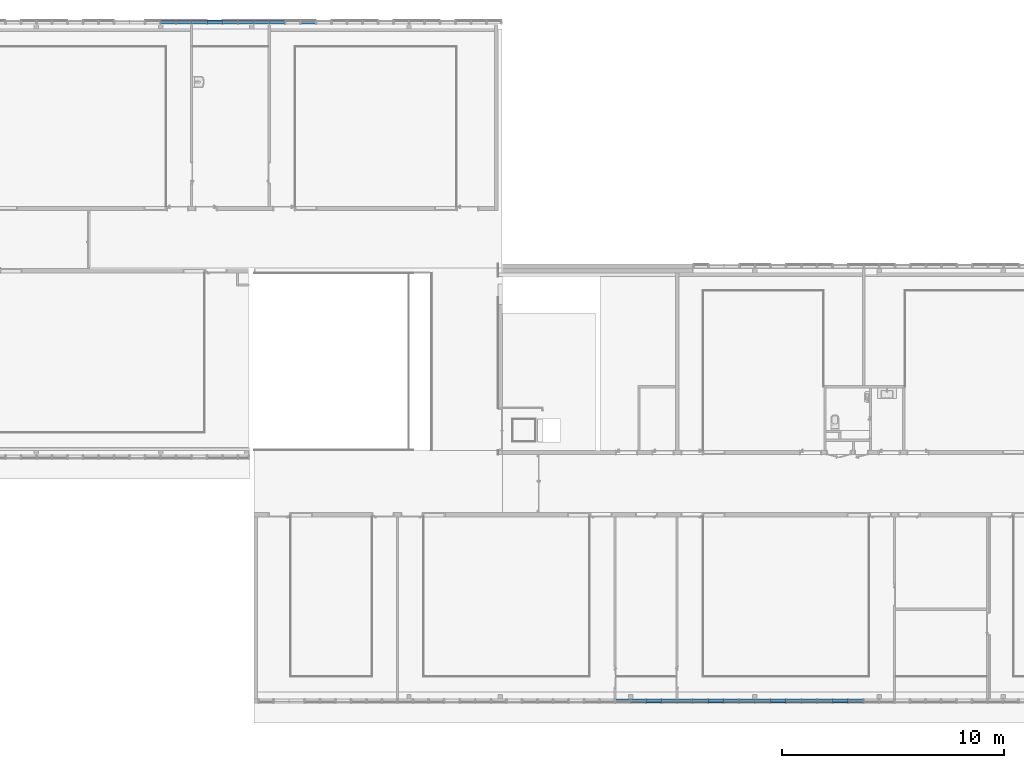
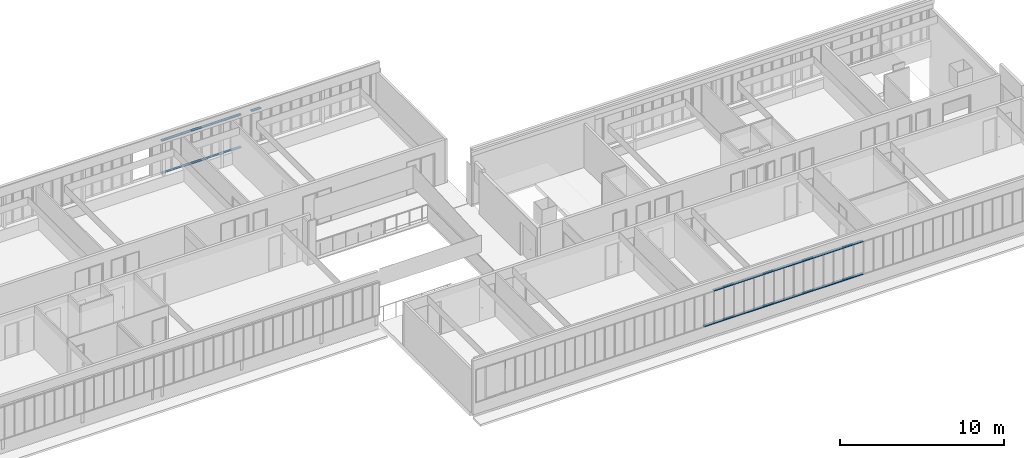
# One storey, part 14 of 87: 58 members, 2 elements without a shape of their own.
"""IFC2X3 building model written with IfcOpenShell, lengths in centimetres."""

from ifc_helpers import new_model, entity, si_unit, converted_unit, derived_unit, direction, frame, origin, place, context, subcontext, project, spatial, polyline, outline, extrude, source, transform, mapped, material, type_object, type_shapes, element, aggregate, save


model = new_model("IFC2X3")

# Units and contexts
model_context = context("Model", 3, precision=0.001, world=origin(), true_north=direction((6.12303176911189e-17, 1.0)))
body_context = subcontext(model_context, "Body", "Model", "MODEL_VIEW")
ifc_project = project(units=[si_unit("LENGTHUNIT", "METRE", prefix="CENTI"), si_unit("AREAUNIT", "SQUARE_METRE"), si_unit("VOLUMEUNIT", "CUBIC_METRE"), converted_unit("PLANEANGLEUNIT", "DEGREE", entity("IfcRatioMeasure", 0.0174532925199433), si_unit("PLANEANGLEUNIT", "RADIAN"), dimensions=[0, 0, 0, 0, 0, 0, 0]), si_unit("MASSUNIT", "GRAM", prefix="KILO"), derived_unit("MASSDENSITYUNIT", [(si_unit("MASSUNIT", "GRAM", prefix="KILO"), 1), (si_unit("LENGTHUNIT", "METRE"), -3)]), si_unit("TIMEUNIT", "SECOND"), si_unit("FREQUENCYUNIT", "HERTZ"), si_unit("THERMODYNAMICTEMPERATUREUNIT", "DEGREE_CELSIUS"), derived_unit("THERMALTRANSMITTANCEUNIT", [(si_unit("MASSUNIT", "GRAM", prefix="KILO"), 1), (si_unit("THERMODYNAMICTEMPERATUREUNIT", "KELVIN"), -1), (si_unit("TIMEUNIT", "SECOND"), -3)]), derived_unit("VOLUMETRICFLOWRATEUNIT", [(si_unit("LENGTHUNIT", "METRE"), 3), (si_unit("TIMEUNIT", "SECOND"), -1)]), si_unit("ELECTRICCURRENTUNIT", "AMPERE"), si_unit("ELECTRICVOLTAGEUNIT", "VOLT"), si_unit("POWERUNIT", "WATT"), si_unit("FORCEUNIT", "NEWTON", prefix="KILO"), si_unit("ILLUMINANCEUNIT", "LUX"), si_unit("LUMINOUSFLUXUNIT", "LUMEN"), si_unit("LUMINOUSINTENSITYUNIT", "CANDELA"), derived_unit("USERDEFINED", [(si_unit("MASSUNIT", "GRAM", prefix="KILO"), -1), (si_unit("LENGTHUNIT", "METRE"), -2), (si_unit("TIMEUNIT", "SECOND"), 3), (si_unit("LUMINOUSFLUXUNIT", "LUMEN"), 1)]), derived_unit("LINEARVELOCITYUNIT", [(si_unit("LENGTHUNIT", "METRE"), 1), (si_unit("TIMEUNIT", "SECOND"), -1)]), si_unit("PRESSUREUNIT", "PASCAL"), derived_unit("USERDEFINED", [(si_unit("LENGTHUNIT", "METRE"), -2), (si_unit("MASSUNIT", "GRAM", prefix="KILO"), 1), (si_unit("TIMEUNIT", "SECOND"), -2)])], contexts=[model_context])

# Site, building, storey
site_placement = place(None, frame((-2781.94577612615, 7442.24238424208, 0.0)))
site = spatial("IfcSite", under=ifc_project, at=site_placement, Name="Default", CompositionType="ELEMENT")
building_placement = place(site_placement, origin())
building = spatial("IfcBuilding", under=site, at=building_placement, CompositionType="ELEMENT")
storey_placement = place(building_placement, frame((0.0, 0.0, 774.0)))
storey = spatial("IfcBuildingStorey", under=building, at=storey_placement, Name="TR - N02 - ARCH", CompositionType="ELEMENT", Elevation=774.0)

# Curtain wall, members
curtain_wall_type = type_object("IfcCurtainWallType", Name="Mur-rideau:07 - mur rideau trame 70cm", PredefinedType="NOTDEFINED")
curtain_wall_1_placement = place(storey_placement, frame((0.0, 0.0, -774.0)))
curtain_wall_1 = element("IfcCurtainWall", 1, at=curtain_wall_1_placement, inside=storey, type_object=curtain_wall_type, Name="Mur-rideau:07 - mur rideau trame 70cm", ObjectType="Mur-rideau:07 - mur rideau trame 70cm")
ifc_material = material(Name="Aluminium")
member_type_1 = type_object("IfcMemberType", Name="150 x 25mm Détails", PredefinedType="MEMBER")
shared_shape_1 = source(origin(), body_context, "Body", "SweptSolid", [
    extrude(outline(polyline([(-5.6666666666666, -3.24999999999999), (-3.66666666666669, -3.24999999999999), (-3.66666666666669, -0.868749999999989), (-0.166666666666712, -0.868749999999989), (-0.166666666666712, -3.25000000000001), (13.3333333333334, -3.25000000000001), (13.3333333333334, 3.24999999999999), (-0.16666666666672, 3.24999999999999), (-0.16666666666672, 0.868749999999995), (-3.66666666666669, 0.868749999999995), (-3.66666666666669, 3.25), (-5.6666666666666, 3.25), (-5.6666666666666, -3.24999999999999)])), frame((-3.24999999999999, -1.96666666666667, -70.0), z_axis=(0.0, 0.0, 1.0), x_axis=(0.0, -1.0, 0.0)), (0.0, 0.0, 1.0), 69.9999999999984),
])
type_shapes(member_type_1, [shared_shape_1])
member_1_placement = place(storey_placement, frame((-4559.4998776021, 26.2000000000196, 332.5), z_axis=(-1.0, 0.0, 0.0), x_axis=(0.0, 0.0, 1.0)))
member_1 = element("IfcMember", 2, at=member_1_placement, type_object=member_type_1, material=ifc_material, Name="Meneau rectangulaire:150 x 25mm Détails", ObjectType="Meneau rectangulaire:150 x 25mm Détails", context=body_context, shape_type="MappedRepresentation", body=[
    mapped(shared_shape_1, transform((0.0, 0.0, 0.0), scale=1.0)),
])
member_2_placement = place(storey_placement, frame((-4699.4998776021, 26.20000000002, 332.5), z_axis=(-1.0, 0.0, 0.0), x_axis=(0.0, 0.0, 1.0)))
member_2 = element("IfcMember", 3, at=member_2_placement, type_object=member_type_1, material=ifc_material, Name="Meneau rectangulaire:150 x 25mm Détails", ObjectType="Meneau rectangulaire:150 x 25mm Détails", context=body_context, shape_type="MappedRepresentation", body=[
    mapped(shared_shape_1, transform((0.0, 0.0, 0.0), scale=1.0)),
])
member_3_placement = place(storey_placement, frame((-4769.4998776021, 26.2000000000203, 332.5), z_axis=(-1.0, 0.0, 0.0), x_axis=(0.0, 0.0, 1.0)))
member_3 = element("IfcMember", 4, at=member_3_placement, type_object=member_type_1, material=ifc_material, Name="Meneau rectangulaire:150 x 25mm Détails", ObjectType="Meneau rectangulaire:150 x 25mm Détails", context=body_context, shape_type="MappedRepresentation", body=[
    mapped(shared_shape_1, transform((0.0, 0.0, 0.0), scale=1.0)),
])
member_4_placement = place(storey_placement, frame((-4839.4998776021, 26.2000000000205, 332.5), z_axis=(-1.0, 0.0, 0.0), x_axis=(0.0, 0.0, 1.0)))
member_4 = element("IfcMember", 5, at=member_4_placement, type_object=member_type_1, material=ifc_material, Name="Meneau rectangulaire:150 x 25mm Détails", ObjectType="Meneau rectangulaire:150 x 25mm Détails", context=body_context, shape_type="MappedRepresentation", body=[
    mapped(shared_shape_1, transform((0.0, 0.0, 0.0), scale=1.0)),
])
member_5_placement = place(storey_placement, frame((-4909.4998776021, 26.2000000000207, 332.5), z_axis=(-1.0, 0.0, 0.0), x_axis=(0.0, 0.0, 1.0)))
member_5 = element("IfcMember", 6, at=member_5_placement, type_object=member_type_1, material=ifc_material, Name="Meneau rectangulaire:150 x 25mm Détails", ObjectType="Meneau rectangulaire:150 x 25mm Détails", context=body_context, shape_type="MappedRepresentation", body=[
    mapped(shared_shape_1, transform((0.0, 0.0, 0.0), scale=1.0)),
])
member_6_placement = place(storey_placement, frame((-4979.4998776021, 26.2000000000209, 332.5), z_axis=(-1.0, 0.0, 0.0), x_axis=(0.0, 0.0, 1.0)))
member_6 = element("IfcMember", 7, at=member_6_placement, type_object=member_type_1, material=ifc_material, Name="Meneau rectangulaire:150 x 25mm Détails", ObjectType="Meneau rectangulaire:150 x 25mm Détails", context=body_context, shape_type="MappedRepresentation", body=[
    mapped(shared_shape_1, transform((0.0, 0.0, 0.0), scale=1.0)),
])
member_7_placement = place(storey_placement, frame((-5049.4998776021, 26.2000000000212, 332.5), z_axis=(-1.0, 0.0, 0.0), x_axis=(0.0, 0.0, 1.0)))
member_7 = element("IfcMember", 8, at=member_7_placement, type_object=member_type_1, material=ifc_material, Name="Meneau rectangulaire:150 x 25mm Détails", ObjectType="Meneau rectangulaire:150 x 25mm Détails", context=body_context, shape_type="MappedRepresentation", body=[
    mapped(shared_shape_1, transform((0.0, 0.0, 0.0), scale=1.0)),
])
member_8_placement = place(storey_placement, frame((-5119.4998776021, 26.2000000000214, 332.5), z_axis=(-1.0, 0.0, 0.0), x_axis=(0.0, 0.0, 1.0)))
member_8 = element("IfcMember", 9, at=member_8_placement, type_object=member_type_1, material=ifc_material, Name="Meneau rectangulaire:150 x 25mm Détails", ObjectType="Meneau rectangulaire:150 x 25mm Détails", context=body_context, shape_type="MappedRepresentation", body=[
    mapped(shared_shape_1, transform((0.0, 0.0, 0.0), scale=1.0)),
])
member_9_placement = place(storey_placement, frame((-5189.4998776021, 26.2000000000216, 332.5), z_axis=(-1.0, 0.0, 0.0), x_axis=(0.0, 0.0, 1.0)))
member_9 = element("IfcMember", 10, at=member_9_placement, type_object=member_type_1, material=ifc_material, Name="Meneau rectangulaire:150 x 25mm Détails", ObjectType="Meneau rectangulaire:150 x 25mm Détails", context=body_context, shape_type="MappedRepresentation", body=[
    mapped(shared_shape_1, transform((0.0, 0.0, 0.0), scale=1.0)),
])

curtain_wall_2_placement = place(storey_placement, frame((0.0, 0.0, -774.0)))
curtain_wall_2 = element("IfcCurtainWall", 11, at=curtain_wall_2_placement, inside=storey, type_object=curtain_wall_type, Name="Mur-rideau:07 - mur rideau trame 70cm", ObjectType="Mur-rideau:07 - mur rideau trame 70cm")
member_10_placement = place(storey_placement, frame((-3000.749882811, -3046.51349958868, 332.5), z_axis=(1.0, 0.0, 0.0), x_axis=(0.0, 0.0, 1.0)))
member_10 = element("IfcMember", 12, at=member_10_placement, type_object=member_type_1, material=ifc_material, Name="Meneau rectangulaire:150 x 25mm Détails", ObjectType="Meneau rectangulaire:150 x 25mm Détails", context=body_context, shape_type="MappedRepresentation", body=[
    mapped(shared_shape_1, transform((0.0, 0.0, 0.0), scale=1.0)),
])
member_11_placement = place(storey_placement, frame((-2930.749882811, -3046.51349958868, 332.5), z_axis=(1.0, 0.0, 0.0), x_axis=(0.0, 0.0, 1.0)))
member_11 = element("IfcMember", 13, at=member_11_placement, type_object=member_type_1, material=ifc_material, Name="Meneau rectangulaire:150 x 25mm Détails", ObjectType="Meneau rectangulaire:150 x 25mm Détails", context=body_context, shape_type="MappedRepresentation", body=[
    mapped(shared_shape_1, transform((0.0, 0.0, 0.0), scale=1.0)),
])
member_12_placement = place(storey_placement, frame((-2860.749882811, -3046.51349958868, 332.5), z_axis=(1.0, 0.0, 0.0), x_axis=(0.0, 0.0, 1.0)))
member_12 = element("IfcMember", 14, at=member_12_placement, type_object=member_type_1, material=ifc_material, Name="Meneau rectangulaire:150 x 25mm Détails", ObjectType="Meneau rectangulaire:150 x 25mm Détails", context=body_context, shape_type="MappedRepresentation", body=[
    mapped(shared_shape_1, transform((0.0, 0.0, 0.0), scale=1.0)),
])
member_13_placement = place(storey_placement, frame((-2790.749882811, -3046.51349958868, 332.5), z_axis=(1.0, 0.0, 0.0), x_axis=(0.0, 0.0, 1.0)))
member_13 = element("IfcMember", 15, at=member_13_placement, type_object=member_type_1, material=ifc_material, Name="Meneau rectangulaire:150 x 25mm Détails", ObjectType="Meneau rectangulaire:150 x 25mm Détails", context=body_context, shape_type="MappedRepresentation", body=[
    mapped(shared_shape_1, transform((0.0, 0.0, 0.0), scale=1.0)),
])
member_14_placement = place(storey_placement, frame((-2720.749882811, -3046.51349958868, 332.5), z_axis=(1.0, 0.0, 0.0), x_axis=(0.0, 0.0, 1.0)))
member_14 = element("IfcMember", 16, at=member_14_placement, type_object=member_type_1, material=ifc_material, Name="Meneau rectangulaire:150 x 25mm Détails", ObjectType="Meneau rectangulaire:150 x 25mm Détails", context=body_context, shape_type="MappedRepresentation", body=[
    mapped(shared_shape_1, transform((0.0, 0.0, 0.0), scale=1.0)),
])
member_15_placement = place(storey_placement, frame((-2650.749882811, -3046.51349958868, 332.5), z_axis=(1.0, 0.0, 0.0), x_axis=(0.0, 0.0, 1.0)))
member_15 = element("IfcMember", 17, at=member_15_placement, type_object=member_type_1, material=ifc_material, Name="Meneau rectangulaire:150 x 25mm Détails", ObjectType="Meneau rectangulaire:150 x 25mm Détails", context=body_context, shape_type="MappedRepresentation", body=[
    mapped(shared_shape_1, transform((0.0, 0.0, 0.0), scale=1.0)),
])
member_16_placement = place(storey_placement, frame((-2580.749882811, -3046.51349958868, 332.5), z_axis=(1.0, 0.0, 0.0), x_axis=(0.0, 0.0, 1.0)))
member_16 = element("IfcMember", 18, at=member_16_placement, type_object=member_type_1, material=ifc_material, Name="Meneau rectangulaire:150 x 25mm Détails", ObjectType="Meneau rectangulaire:150 x 25mm Détails", context=body_context, shape_type="MappedRepresentation", body=[
    mapped(shared_shape_1, transform((0.0, 0.0, 0.0), scale=1.0)),
])
member_17_placement = place(storey_placement, frame((-2510.749882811, -3046.51349958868, 332.5), z_axis=(1.0, 0.0, 0.0), x_axis=(0.0, 0.0, 1.0)))
member_17 = element("IfcMember", 19, at=member_17_placement, type_object=member_type_1, material=ifc_material, Name="Meneau rectangulaire:150 x 25mm Détails", ObjectType="Meneau rectangulaire:150 x 25mm Détails", context=body_context, shape_type="MappedRepresentation", body=[
    mapped(shared_shape_1, transform((0.0, 0.0, 0.0), scale=1.0)),
])
member_18_placement = place(storey_placement, frame((-2440.749882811, -3046.51349958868, 332.5), z_axis=(1.0, 0.0, 0.0), x_axis=(0.0, 0.0, 1.0)))
member_18 = element("IfcMember", 20, at=member_18_placement, type_object=member_type_1, material=ifc_material, Name="Meneau rectangulaire:150 x 25mm Détails", ObjectType="Meneau rectangulaire:150 x 25mm Détails", context=body_context, shape_type="MappedRepresentation", body=[
    mapped(shared_shape_1, transform((0.0, 0.0, 0.0), scale=1.0)),
])
member_19_placement = place(storey_placement, frame((-2370.749882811, -3046.51349958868, 332.5), z_axis=(1.0, 0.0, 0.0), x_axis=(0.0, 0.0, 1.0)))
member_19 = element("IfcMember", 21, at=member_19_placement, type_object=member_type_1, material=ifc_material, Name="Meneau rectangulaire:150 x 25mm Détails", ObjectType="Meneau rectangulaire:150 x 25mm Détails", context=body_context, shape_type="MappedRepresentation", body=[
    mapped(shared_shape_1, transform((0.0, 0.0, 0.0), scale=1.0)),
])
member_20_placement = place(storey_placement, frame((-2300.749882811, -3046.51349958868, 332.5), z_axis=(1.0, 0.0, 0.0), x_axis=(0.0, 0.0, 1.0)))
member_20 = element("IfcMember", 22, at=member_20_placement, type_object=member_type_1, material=ifc_material, Name="Meneau rectangulaire:150 x 25mm Détails", ObjectType="Meneau rectangulaire:150 x 25mm Détails", context=body_context, shape_type="MappedRepresentation", body=[
    mapped(shared_shape_1, transform((0.0, 0.0, 0.0), scale=1.0)),
])
member_21_placement = place(storey_placement, frame((-2230.749882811, -3046.51349958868, 332.5), z_axis=(1.0, 0.0, 0.0), x_axis=(0.0, 0.0, 1.0)))
member_21 = element("IfcMember", 23, at=member_21_placement, type_object=member_type_1, material=ifc_material, Name="Meneau rectangulaire:150 x 25mm Détails", ObjectType="Meneau rectangulaire:150 x 25mm Détails", context=body_context, shape_type="MappedRepresentation", body=[
    mapped(shared_shape_1, transform((0.0, 0.0, 0.0), scale=1.0)),
])
member_22_placement = place(storey_placement, frame((-2160.749882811, -3046.51349958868, 332.5), z_axis=(1.0, 0.0, 0.0), x_axis=(0.0, 0.0, 1.0)))
member_22 = element("IfcMember", 24, at=member_22_placement, type_object=member_type_1, material=ifc_material, Name="Meneau rectangulaire:150 x 25mm Détails", ObjectType="Meneau rectangulaire:150 x 25mm Détails", context=body_context, shape_type="MappedRepresentation", body=[
    mapped(shared_shape_1, transform((0.0, 0.0, 0.0), scale=1.0)),
])
member_23_placement = place(storey_placement, frame((-2090.749882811, -3046.51349958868, 332.5), z_axis=(1.0, 0.0, 0.0), x_axis=(0.0, 0.0, 1.0)))
member_23 = element("IfcMember", 25, at=member_23_placement, type_object=member_type_1, material=ifc_material, Name="Meneau rectangulaire:150 x 25mm Détails", ObjectType="Meneau rectangulaire:150 x 25mm Détails", context=body_context, shape_type="MappedRepresentation", body=[
    mapped(shared_shape_1, transform((0.0, 0.0, 0.0), scale=1.0)),
])
member_24_placement = place(storey_placement, frame((-2020.749882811, -3046.51349958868, 332.5), z_axis=(1.0, 0.0, 0.0), x_axis=(0.0, 0.0, 1.0)))
member_24 = element("IfcMember", 26, at=member_24_placement, type_object=member_type_1, material=ifc_material, Name="Meneau rectangulaire:150 x 25mm Détails", ObjectType="Meneau rectangulaire:150 x 25mm Détails", context=body_context, shape_type="MappedRepresentation", body=[
    mapped(shared_shape_1, transform((0.0, 0.0, 0.0), scale=1.0)),
])

# Member
member_type_2 = type_object("IfcMemberType", Name="150 x 25mm Détails", PredefinedType="MEMBER")
shared_shape_2 = source(origin(), body_context, "Body", "SweptSolid", [
    extrude(outline(polyline([(-5.66666666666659, -3.25), (-3.66666666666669, -3.25), (-3.66666666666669, -0.868749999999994), (-0.166666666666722, -0.868749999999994), (-0.166666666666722, -3.25000000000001), (13.3333333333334, -3.24999999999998), (13.3333333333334, 3.25000000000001), (-0.166666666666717, 3.25000000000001), (-0.166666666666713, 0.868749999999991), (-3.66666666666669, 0.868749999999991), (-3.66666666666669, 3.24999999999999), (-5.66666666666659, 3.24999999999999), (-5.66666666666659, -3.25)])), frame((-3.24999999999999, -1.96666666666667, -70.0), z_axis=(0.0, 0.0, 1.0), x_axis=(0.0, -1.0, 0.0)), (0.0, 0.0, 1.0), 69.9999999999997),
])
type_shapes(member_type_2, [shared_shape_2])
member_25_placement = place(storey_placement, frame((-4629.4998776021, 26.2000000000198, 83.5), z_axis=(1.0, 0.0, 0.0), x_axis=(0.0, 0.0, -1.0)))
member_25 = element("IfcMember", 27, at=member_25_placement, type_object=member_type_2, material=ifc_material, Name="Meneau rectangulaire:150 x 25mm Détails", ObjectType="Meneau rectangulaire:150 x 25mm Détails", context=body_context, shape_type="MappedRepresentation", body=[
    mapped(shared_shape_2, transform((0.0, 0.0, 0.0), scale=1.0)),
])

member_26_placement = place(storey_placement, frame((-4699.4998776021, 26.20000000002, 83.5), z_axis=(1.0, 0.0, 0.0), x_axis=(0.0, 0.0, -1.0)))
member_26 = element("IfcMember", 28, at=member_26_placement, type_object=member_type_2, material=ifc_material, Name="Meneau rectangulaire:150 x 25mm Détails", ObjectType="Meneau rectangulaire:150 x 25mm Détails", context=body_context, shape_type="MappedRepresentation", body=[
    mapped(shared_shape_2, transform((0.0, 0.0, 0.0), scale=1.0)),
])

member_27_placement = place(storey_placement, frame((-4769.4998776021, 26.2000000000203, 83.5), z_axis=(1.0, 0.0, 0.0), x_axis=(0.0, 0.0, -1.0)))
member_27 = element("IfcMember", 29, at=member_27_placement, type_object=member_type_2, material=ifc_material, Name="Meneau rectangulaire:150 x 25mm Détails", ObjectType="Meneau rectangulaire:150 x 25mm Détails", context=body_context, shape_type="MappedRepresentation", body=[
    mapped(shared_shape_2, transform((0.0, 0.0, 0.0), scale=1.0)),
])

member_28_placement = place(storey_placement, frame((-4839.4998776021, 26.2000000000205, 83.5), z_axis=(1.0, 0.0, 0.0), x_axis=(0.0, 0.0, -1.0)))
member_28 = element("IfcMember", 30, at=member_28_placement, type_object=member_type_2, material=ifc_material, Name="Meneau rectangulaire:150 x 25mm Détails", ObjectType="Meneau rectangulaire:150 x 25mm Détails", context=body_context, shape_type="MappedRepresentation", body=[
    mapped(shared_shape_2, transform((0.0, 0.0, 0.0), scale=1.0)),
])

member_29_placement = place(storey_placement, frame((-4909.4998776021, 26.2000000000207, 83.5), z_axis=(1.0, 0.0, 0.0), x_axis=(0.0, 0.0, -1.0)))
member_29 = element("IfcMember", 31, at=member_29_placement, type_object=member_type_2, material=ifc_material, Name="Meneau rectangulaire:150 x 25mm Détails", ObjectType="Meneau rectangulaire:150 x 25mm Détails", context=body_context, shape_type="MappedRepresentation", body=[
    mapped(shared_shape_2, transform((0.0, 0.0, 0.0), scale=1.0)),
])

member_30_placement = place(storey_placement, frame((-4979.4998776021, 26.2000000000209, 83.5), z_axis=(1.0, 0.0, 0.0), x_axis=(0.0, 0.0, -1.0)))
member_30 = element("IfcMember", 32, at=member_30_placement, type_object=member_type_2, material=ifc_material, Name="Meneau rectangulaire:150 x 25mm Détails", ObjectType="Meneau rectangulaire:150 x 25mm Détails", context=body_context, shape_type="MappedRepresentation", body=[
    mapped(shared_shape_2, transform((0.0, 0.0, 0.0), scale=1.0)),
])

member_31_placement = place(storey_placement, frame((-5049.4998776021, 26.2000000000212, 83.5), z_axis=(1.0, 0.0, 0.0), x_axis=(0.0, 0.0, -1.0)))
member_31 = element("IfcMember", 33, at=member_31_placement, type_object=member_type_2, material=ifc_material, Name="Meneau rectangulaire:150 x 25mm Détails", ObjectType="Meneau rectangulaire:150 x 25mm Détails", context=body_context, shape_type="MappedRepresentation", body=[
    mapped(shared_shape_2, transform((0.0, 0.0, 0.0), scale=1.0)),
])

member_32_placement = place(storey_placement, frame((-5119.4998776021, 26.2000000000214, 83.5), z_axis=(1.0, 0.0, 0.0), x_axis=(0.0, 0.0, -1.0)))
member_32 = element("IfcMember", 34, at=member_32_placement, type_object=member_type_2, material=ifc_material, Name="Meneau rectangulaire:150 x 25mm Détails", ObjectType="Meneau rectangulaire:150 x 25mm Détails", context=body_context, shape_type="MappedRepresentation", body=[
    mapped(shared_shape_2, transform((0.0, 0.0, 0.0), scale=1.0)),
])

member_33_placement = place(storey_placement, frame((-3140.749882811, -3046.51349958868, 83.5000000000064), z_axis=(-1.0, 0.0, 0.0), x_axis=(0.0, 0.0, -1.0)))
member_33 = element("IfcMember", 35, at=member_33_placement, type_object=member_type_2, material=ifc_material, Name="Meneau rectangulaire:150 x 25mm Détails", ObjectType="Meneau rectangulaire:150 x 25mm Détails", context=body_context, shape_type="MappedRepresentation", body=[
    mapped(shared_shape_2, transform((0.0, 0.0, 0.0), scale=1.0)),
])

member_34_placement = place(storey_placement, frame((-3070.749882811, -3046.51349958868, 83.5000000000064), z_axis=(-1.0, 0.0, 0.0), x_axis=(0.0, 0.0, -1.0)))
member_34 = element("IfcMember", 36, at=member_34_placement, type_object=member_type_2, material=ifc_material, Name="Meneau rectangulaire:150 x 25mm Détails", ObjectType="Meneau rectangulaire:150 x 25mm Détails", context=body_context, shape_type="MappedRepresentation", body=[
    mapped(shared_shape_2, transform((0.0, 0.0, 0.0), scale=1.0)),
])

member_35_placement = place(storey_placement, frame((-3000.749882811, -3046.51349958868, 83.5000000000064), z_axis=(-1.0, 0.0, 0.0), x_axis=(0.0, 0.0, -1.0)))
member_35 = element("IfcMember", 37, at=member_35_placement, type_object=member_type_2, material=ifc_material, Name="Meneau rectangulaire:150 x 25mm Détails", ObjectType="Meneau rectangulaire:150 x 25mm Détails", context=body_context, shape_type="MappedRepresentation", body=[
    mapped(shared_shape_2, transform((0.0, 0.0, 0.0), scale=1.0)),
])

member_36_placement = place(storey_placement, frame((-2930.749882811, -3046.51349958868, 83.5000000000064), z_axis=(-1.0, 0.0, 0.0), x_axis=(0.0, 0.0, -1.0)))
member_36 = element("IfcMember", 38, at=member_36_placement, type_object=member_type_2, material=ifc_material, Name="Meneau rectangulaire:150 x 25mm Détails", ObjectType="Meneau rectangulaire:150 x 25mm Détails", context=body_context, shape_type="MappedRepresentation", body=[
    mapped(shared_shape_2, transform((0.0, 0.0, 0.0), scale=1.0)),
])

member_37_placement = place(storey_placement, frame((-2860.749882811, -3046.51349958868, 83.5000000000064), z_axis=(-1.0, 0.0, 0.0), x_axis=(0.0, 0.0, -1.0)))
member_37 = element("IfcMember", 39, at=member_37_placement, type_object=member_type_2, material=ifc_material, Name="Meneau rectangulaire:150 x 25mm Détails", ObjectType="Meneau rectangulaire:150 x 25mm Détails", context=body_context, shape_type="MappedRepresentation", body=[
    mapped(shared_shape_2, transform((0.0, 0.0, 0.0), scale=1.0)),
])

member_38_placement = place(storey_placement, frame((-2790.749882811, -3046.51349958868, 83.5000000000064), z_axis=(-1.0, 0.0, 0.0), x_axis=(0.0, 0.0, -1.0)))
member_38 = element("IfcMember", 40, at=member_38_placement, type_object=member_type_2, material=ifc_material, Name="Meneau rectangulaire:150 x 25mm Détails", ObjectType="Meneau rectangulaire:150 x 25mm Détails", context=body_context, shape_type="MappedRepresentation", body=[
    mapped(shared_shape_2, transform((0.0, 0.0, 0.0), scale=1.0)),
])

member_39_placement = place(storey_placement, frame((-2720.749882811, -3046.51349958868, 83.5000000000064), z_axis=(-1.0, 0.0, 0.0), x_axis=(0.0, 0.0, -1.0)))
member_39 = element("IfcMember", 41, at=member_39_placement, type_object=member_type_2, material=ifc_material, Name="Meneau rectangulaire:150 x 25mm Détails", ObjectType="Meneau rectangulaire:150 x 25mm Détails", context=body_context, shape_type="MappedRepresentation", body=[
    mapped(shared_shape_2, transform((0.0, 0.0, 0.0), scale=1.0)),
])

member_40_placement = place(storey_placement, frame((-2650.749882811, -3046.51349958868, 83.5000000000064), z_axis=(-1.0, 0.0, 0.0), x_axis=(0.0, 0.0, -1.0)))
member_40 = element("IfcMember", 42, at=member_40_placement, type_object=member_type_2, material=ifc_material, Name="Meneau rectangulaire:150 x 25mm Détails", ObjectType="Meneau rectangulaire:150 x 25mm Détails", context=body_context, shape_type="MappedRepresentation", body=[
    mapped(shared_shape_2, transform((0.0, 0.0, 0.0), scale=1.0)),
])

member_41_placement = place(storey_placement, frame((-2580.749882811, -3046.51349958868, 83.5000000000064), z_axis=(-1.0, 0.0, 0.0), x_axis=(0.0, 0.0, -1.0)))
member_41 = element("IfcMember", 43, at=member_41_placement, type_object=member_type_2, material=ifc_material, Name="Meneau rectangulaire:150 x 25mm Détails", ObjectType="Meneau rectangulaire:150 x 25mm Détails", context=body_context, shape_type="MappedRepresentation", body=[
    mapped(shared_shape_2, transform((0.0, 0.0, 0.0), scale=1.0)),
])

member_42_placement = place(storey_placement, frame((-2510.749882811, -3046.51349958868, 83.5000000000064), z_axis=(-1.0, 0.0, 0.0), x_axis=(0.0, 0.0, -1.0)))
member_42 = element("IfcMember", 44, at=member_42_placement, type_object=member_type_2, material=ifc_material, Name="Meneau rectangulaire:150 x 25mm Détails", ObjectType="Meneau rectangulaire:150 x 25mm Détails", context=body_context, shape_type="MappedRepresentation", body=[
    mapped(shared_shape_2, transform((0.0, 0.0, 0.0), scale=1.0)),
])

member_43_placement = place(storey_placement, frame((-2440.749882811, -3046.51349958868, 83.5000000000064), z_axis=(-1.0, 0.0, 0.0), x_axis=(0.0, 0.0, -1.0)))
member_43 = element("IfcMember", 45, at=member_43_placement, type_object=member_type_2, material=ifc_material, Name="Meneau rectangulaire:150 x 25mm Détails", ObjectType="Meneau rectangulaire:150 x 25mm Détails", context=body_context, shape_type="MappedRepresentation", body=[
    mapped(shared_shape_2, transform((0.0, 0.0, 0.0), scale=1.0)),
])

member_44_placement = place(storey_placement, frame((-2370.749882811, -3046.51349958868, 83.5000000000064), z_axis=(-1.0, 0.0, 0.0), x_axis=(0.0, 0.0, -1.0)))
member_44 = element("IfcMember", 46, at=member_44_placement, type_object=member_type_2, material=ifc_material, Name="Meneau rectangulaire:150 x 25mm Détails", ObjectType="Meneau rectangulaire:150 x 25mm Détails", context=body_context, shape_type="MappedRepresentation", body=[
    mapped(shared_shape_2, transform((0.0, 0.0, 0.0), scale=1.0)),
])

member_45_placement = place(storey_placement, frame((-2300.749882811, -3046.51349958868, 83.5000000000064), z_axis=(-1.0, 0.0, 0.0), x_axis=(0.0, 0.0, -1.0)))
member_45 = element("IfcMember", 47, at=member_45_placement, type_object=member_type_2, material=ifc_material, Name="Meneau rectangulaire:150 x 25mm Détails", ObjectType="Meneau rectangulaire:150 x 25mm Détails", context=body_context, shape_type="MappedRepresentation", body=[
    mapped(shared_shape_2, transform((0.0, 0.0, 0.0), scale=1.0)),
])

member_46_placement = place(storey_placement, frame((-2230.749882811, -3046.51349958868, 83.5000000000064), z_axis=(-1.0, 0.0, 0.0), x_axis=(0.0, 0.0, -1.0)))
member_46 = element("IfcMember", 48, at=member_46_placement, type_object=member_type_2, material=ifc_material, Name="Meneau rectangulaire:150 x 25mm Détails", ObjectType="Meneau rectangulaire:150 x 25mm Détails", context=body_context, shape_type="MappedRepresentation", body=[
    mapped(shared_shape_2, transform((0.0, 0.0, 0.0), scale=1.0)),
])

member_47_placement = place(storey_placement, frame((-2160.749882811, -3046.51349958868, 83.5000000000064), z_axis=(-1.0, 0.0, 0.0), x_axis=(0.0, 0.0, -1.0)))
member_47 = element("IfcMember", 49, at=member_47_placement, type_object=member_type_2, material=ifc_material, Name="Meneau rectangulaire:150 x 25mm Détails", ObjectType="Meneau rectangulaire:150 x 25mm Détails", context=body_context, shape_type="MappedRepresentation", body=[
    mapped(shared_shape_2, transform((0.0, 0.0, 0.0), scale=1.0)),
])

member_48_placement = place(storey_placement, frame((-2090.749882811, -3046.51349958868, 83.5000000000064), z_axis=(-1.0, 0.0, 0.0), x_axis=(0.0, 0.0, -1.0)))
member_48 = element("IfcMember", 50, at=member_48_placement, type_object=member_type_2, material=ifc_material, Name="Meneau rectangulaire:150 x 25mm Détails", ObjectType="Meneau rectangulaire:150 x 25mm Détails", context=body_context, shape_type="MappedRepresentation", body=[
    mapped(shared_shape_2, transform((0.0, 0.0, 0.0), scale=1.0)),
])

member_type_3 = type_object("IfcMemberType", Name="150 x 25mm Détails", PredefinedType="MEMBER")
shared_shape_3 = source(origin(), body_context, "Body", "SweptSolid", [
    extrude(outline(polyline([(-5.66666666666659, -3.25), (-3.66666666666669, -3.25), (-3.66666666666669, -0.868749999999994), (-0.166666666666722, -0.868749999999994), (-0.166666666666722, -3.25000000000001), (13.3333333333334, -3.24999999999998), (13.3333333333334, 3.25000000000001), (-0.166666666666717, 3.25000000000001), (-0.166666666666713, 0.868749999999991), (-3.66666666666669, 0.868749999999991), (-3.66666666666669, 3.24999999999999), (-5.66666666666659, 3.24999999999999), (-5.66666666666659, -3.25)])), frame((-3.24999999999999, -1.96666666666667, -68.0), z_axis=(0.0, 0.0, 1.0), x_axis=(0.0, -1.0, 0.0)), (0.0, 0.0, 1.0), 68.0000000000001),
])
type_shapes(member_type_3, [shared_shape_3])
member_49_placement = place(storey_placement, frame((-4910.6311276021, 26.2000000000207, 326.0), z_axis=(1.0, 0.0, 0.0), x_axis=(0.0, 0.0, -1.0)))
member_49 = element("IfcMember", 51, at=member_49_placement, type_object=member_type_3, material=ifc_material, Name="Meneau rectangulaire:150 x 25mm Détails", ObjectType="Meneau rectangulaire:150 x 25mm Détails", context=body_context, shape_type="MappedRepresentation", body=[
    mapped(shared_shape_3, transform((0.0, 0.0, 0.0), scale=1.0)),
])

member_50_placement = place(storey_placement, frame((-2999.99987760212, -3046.51349958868, 326.0), z_axis=(-1.0, 0.0, 0.0), x_axis=(0.0, 0.0, -1.0)))
member_50 = element("IfcMember", 52, at=member_50_placement, type_object=member_type_3, material=ifc_material, Name="Meneau rectangulaire:150 x 25mm Détails", ObjectType="Meneau rectangulaire:150 x 25mm Détails", context=body_context, shape_type="MappedRepresentation", body=[
    mapped(shared_shape_3, transform((0.0, 0.0, 0.0), scale=1.0)),
])

member_51_placement = place(storey_placement, frame((-2719.99987760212, -3046.51349958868, 326.0), z_axis=(-1.0, 0.0, 0.0), x_axis=(0.0, 0.0, -1.0)))
member_51 = element("IfcMember", 53, at=member_51_placement, type_object=member_type_3, material=ifc_material, Name="Meneau rectangulaire:150 x 25mm Détails", ObjectType="Meneau rectangulaire:150 x 25mm Détails", context=body_context, shape_type="MappedRepresentation", body=[
    mapped(shared_shape_3, transform((0.0, 0.0, 0.0), scale=1.0)),
])

member_52_placement = place(storey_placement, frame((-2439.99987760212, -3046.51349958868, 326.0), z_axis=(-1.0, 0.0, 0.0), x_axis=(0.0, 0.0, -1.0)))
member_52 = element("IfcMember", 54, at=member_52_placement, type_object=member_type_3, material=ifc_material, Name="Meneau rectangulaire:150 x 25mm Détails", ObjectType="Meneau rectangulaire:150 x 25mm Détails", context=body_context, shape_type="MappedRepresentation", body=[
    mapped(shared_shape_3, transform((0.0, 0.0, 0.0), scale=1.0)),
])

member_53_placement = place(storey_placement, frame((-2159.99987760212, -3046.51349958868, 326.0), z_axis=(-1.0, 0.0, 0.0), x_axis=(0.0, 0.0, -1.0)))
member_53 = element("IfcMember", 55, at=member_53_placement, type_object=member_type_3, material=ifc_material, Name="Meneau rectangulaire:150 x 25mm Détails", ObjectType="Meneau rectangulaire:150 x 25mm Détails", context=body_context, shape_type="MappedRepresentation", body=[
    mapped(shared_shape_3, transform((0.0, 0.0, 0.0), scale=1.0)),
])

member_type_4 = type_object("IfcMemberType", Name="150 x 25mm Détails", PredefinedType="MEMBER")
shared_shape_4 = source(origin(), body_context, "Body", "SweptSolid", [
    extrude(outline(polyline([(-5.6666666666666, -3.24999999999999), (-3.66666666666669, -3.24999999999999), (-3.66666666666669, -0.868749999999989), (-0.166666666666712, -0.868749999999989), (-0.166666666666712, -3.25000000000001), (13.3333333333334, -3.25000000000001), (13.3333333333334, 3.24999999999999), (-0.16666666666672, 3.24999999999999), (-0.16666666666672, 0.868749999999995), (-3.66666666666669, 0.868749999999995), (-3.66666666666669, 3.25), (-5.6666666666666, 3.25), (-5.6666666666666, -3.24999999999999)])), frame((-3.24999999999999, -1.96666666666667, -68.0), z_axis=(0.0, 0.0, 1.0), x_axis=(0.0, -1.0, 0.0)), (0.0, 0.0, 1.0), 68.0000000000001),
])
type_shapes(member_type_4, [shared_shape_4])
member_54_placement = place(storey_placement, frame((-4978.6311276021, 26.2000000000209, 90.0), z_axis=(-1.0, 0.0, 0.0), x_axis=(0.0, 0.0, 1.0)))
member_54 = element("IfcMember", 56, at=member_54_placement, type_object=member_type_4, material=ifc_material, Name="Meneau rectangulaire:150 x 25mm Détails", ObjectType="Meneau rectangulaire:150 x 25mm Détails", context=body_context, shape_type="MappedRepresentation", body=[
    mapped(shared_shape_4, transform((0.0, 0.0, 0.0), scale=1.0)),
])

aggregate(curtain_wall_1, [member_1, member_2, member_3, member_4, member_5, member_6, member_7, member_8, member_9, member_25, member_26, member_27, member_28, member_29, member_30, member_31, member_32, member_49, member_54])

member_55_placement = place(storey_placement, frame((-2931.99987760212, -3046.51349958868, 90.0), z_axis=(1.0, 0.0, 0.0), x_axis=(0.0, 0.0, 1.0)))
member_55 = element("IfcMember", 57, at=member_55_placement, type_object=member_type_4, material=ifc_material, Name="Meneau rectangulaire:150 x 25mm Détails", ObjectType="Meneau rectangulaire:150 x 25mm Détails", context=body_context, shape_type="MappedRepresentation", body=[
    mapped(shared_shape_4, transform((0.0, 0.0, 0.0), scale=1.0)),
])

member_56_placement = place(storey_placement, frame((-2651.99987760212, -3046.51349958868, 90.0), z_axis=(1.0, 0.0, 0.0), x_axis=(0.0, 0.0, 1.0)))
member_56 = element("IfcMember", 58, at=member_56_placement, type_object=member_type_4, material=ifc_material, Name="Meneau rectangulaire:150 x 25mm Détails", ObjectType="Meneau rectangulaire:150 x 25mm Détails", context=body_context, shape_type="MappedRepresentation", body=[
    mapped(shared_shape_4, transform((0.0, 0.0, 0.0), scale=1.0)),
])

member_57_placement = place(storey_placement, frame((-2371.99987760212, -3046.51349958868, 90.0), z_axis=(1.0, 0.0, 0.0), x_axis=(0.0, 0.0, 1.0)))
member_57 = element("IfcMember", 59, at=member_57_placement, type_object=member_type_4, material=ifc_material, Name="Meneau rectangulaire:150 x 25mm Détails", ObjectType="Meneau rectangulaire:150 x 25mm Détails", context=body_context, shape_type="MappedRepresentation", body=[
    mapped(shared_shape_4, transform((0.0, 0.0, 0.0), scale=1.0)),
])

member_58_placement = place(storey_placement, frame((-2091.99987760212, -3046.51349958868, 90.0), z_axis=(1.0, 0.0, 0.0), x_axis=(0.0, 0.0, 1.0)))
member_58 = element("IfcMember", 60, at=member_58_placement, type_object=member_type_4, material=ifc_material, Name="Meneau rectangulaire:150 x 25mm Détails", ObjectType="Meneau rectangulaire:150 x 25mm Détails", context=body_context, shape_type="MappedRepresentation", body=[
    mapped(shared_shape_4, transform((0.0, 0.0, 0.0), scale=1.0)),
])

aggregate(curtain_wall_2, [member_10, member_11, member_12, member_13, member_14, member_15, member_16, member_17, member_18, member_19, member_20, member_21, member_22, member_23, member_24, member_33, member_34, member_35, member_36, member_37, member_38, member_39, member_40, member_41, member_42, member_43, member_44, member_45, member_46, member_47, member_48, member_50, member_55, member_51, member_56, member_52, member_57, member_53, member_58])

save(model, "model.ifc")
